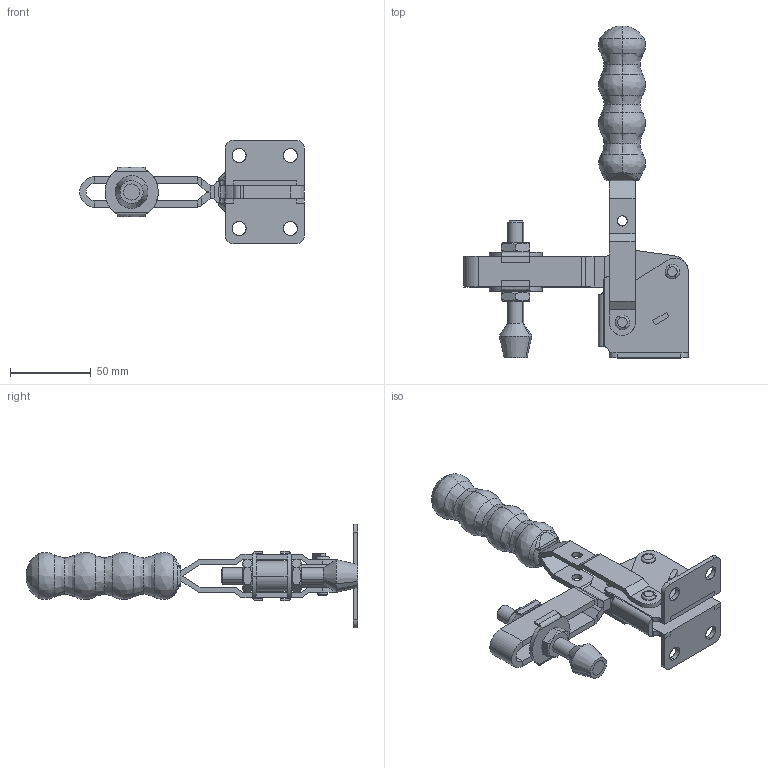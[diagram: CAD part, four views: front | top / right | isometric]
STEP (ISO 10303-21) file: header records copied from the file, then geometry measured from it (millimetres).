
FILE_DESCRIPTION(('CATIA V5 STEP Exchange'),'2;1');
FILE_NAME('\\Kjf-102\kjf_tc\Toggle_Clamp\GOODHAND\KJF-034-11FS.stp','2017-09-06T01:42:33+00:00',('none'),('none'),'CATIA Version 5 Release 19 SP 6 (IN-10)','CATIA V5 STEP AP214','none');
FILE_SCHEMA(('AUTOMOTIVE_DESIGN { 1 0 10303 214 1 1 1 1 }'));
Products named in the file (1): KJF-034-11FS
Bounding box: 139.5 x 206 x 64.3 mm (x, y, z)
Volume: 123882.7 mm3; surface area: 65136.7 mm2
Topology: 12 solids, 12 shells, 332 faces, 839 edges, 532 vertices
Faces by surface type: bspline 127, plane 94, cylinder 49, extrusion 30, cone 26, torus 6
Entity records: 38148 total; most frequent: CARTESIAN_POINT 31737, ORIENTED_EDGE 1666, EDGE_CURVE 833, DIRECTION 667, VERTEX_POINT 529, EDGE_LOOP 366, B_SPLINE_CURVE_WITH_KNOTS 361, ADVANCED_FACE 332
